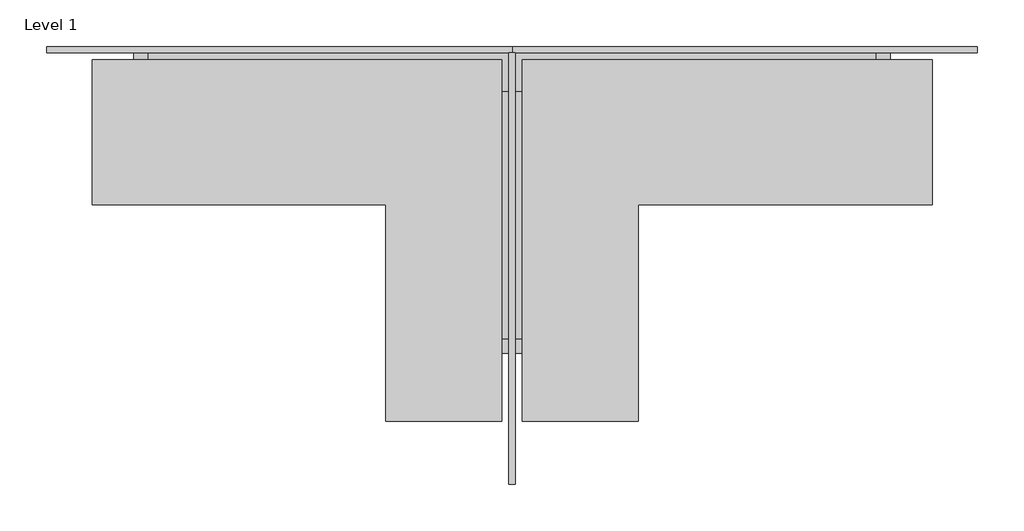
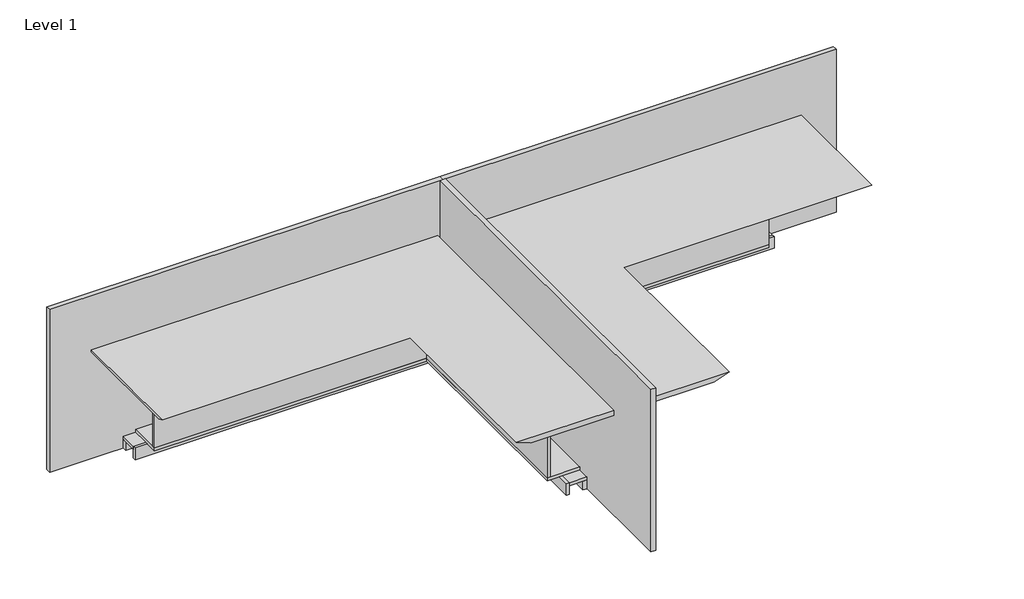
# One storey, incomplete: 9 proxies.
"""IFC4 building model written with IfcOpenShell, lengths in millimetres."""

import ifcopenshell
import ifcopenshell.guid

model = None  # the IFC model being written
_history = None  # IfcOwnerHistory: only IFC2X3 demands one
_inside = {}  # id of a spatial element -> (the spatial element, [elements in it])
_under = {}  # id of a project, library or spatial element -> (it, [spatial elements below it])
_declared = {}  # id of a project -> (the project, [libraries it declares])
_typed = {}  # id of a type object -> (the type object, [elements of that type])
_made_of = {}  # id of a material, layer set ... -> (it, [elements and type objects made of it])


def new_model(schema):
    """Start an empty IFC model of exactly this schema.

    Asked for "IFC4X3", IfcOpenShell would pick the latest addendum, in which some entities
    have other attributes; the version numbers below select the first issue.
    IFC2X3 requires an IfcOwnerHistory on every rooted entity: one is made here for all.
    """
    global model, _history
    if schema == "IFC4X3":
        model = ifcopenshell.file(schema_version=(4, 3, 0, 0))
    else:
        model = ifcopenshell.file(schema=schema)
    _inside.clear()
    _under.clear()
    _declared.clear()
    _typed.clear()
    _made_of.clear()
    _history = None
    if model.schema == "IFC2X3":
        org = make("IfcOrganization", Name="unknown")
        user = make(
            "IfcPersonAndOrganization",
            ThePerson=make("IfcPerson", FamilyName="unknown"),
            TheOrganization=org,
        )
        app = make(
            "IfcApplication",
            ApplicationDeveloper=org,
            Version="unknown",
            ApplicationFullName="unknown",
            ApplicationIdentifier="unknown",
        )
        _history = make(
            "IfcOwnerHistory",
            OwningUser=user,
            OwningApplication=app,
            ChangeAction="ADDED",
            CreationDate=0,
        )
    return model


def make(cls, **values):
    """One entity of the class cls with the attributes given. An attribute that is None is left unset."""
    return model.create_entity(
        cls, **{name: value for name, value in values.items() if value is not None}
    )


def rooted(cls, **values):
    """An entity with a GlobalId (a new one), such as an element, a storey or a relation."""
    return make(cls, GlobalId=ifcopenshell.guid.new(), OwnerHistory=_history, **values)


def si_unit(unit_type, name, prefix=None):
    """IfcSIUnit, for example si_unit("LENGTHUNIT", "METRE", prefix="MILLI")."""
    return make("IfcSIUnit", UnitType=unit_type, Prefix=prefix, Name=name)


def assignment(units):
    """IfcUnitAssignment: the units of a project."""
    return None if units is None else make("IfcUnitAssignment", Units=units)


def point(xyz):
    """IfcCartesianPoint."""
    return None if xyz is None else make("IfcCartesianPoint", Coordinates=xyz)


def direction(xyz):
    """IfcDirection."""
    return None if xyz is None else make("IfcDirection", DirectionRatios=xyz)


def frame(location, z_axis=None, x_axis=None):
    """IfcAxis2Placement3D, a coordinate frame: its origin and axes. An axis left out is left unset."""
    return make(
        "IfcAxis2Placement3D",
        Location=point(location),
        Axis=direction(z_axis),
        RefDirection=direction(x_axis),
    )


def origin():
    """The frame at (0, 0, 0) with its axes left unset."""
    return frame((0.0, 0.0, 0.0))


def origin_with_axes():
    """The frame at (0, 0, 0) with the z axis (0, 0, 1) and the x axis (1, 0, 0) written out."""
    return frame((0.0, 0.0, 0.0), z_axis=(0.0, 0.0, 1.0), x_axis=(1.0, 0.0, 0.0))


def place(relative_to, where):
    """IfcLocalPlacement: puts the frame where relative to a parent placement (None: the world)."""
    return make(
        "IfcLocalPlacement", PlacementRelTo=relative_to, RelativePlacement=where
    )


def context(
    kind, dimensions, precision=None, world=None, true_north=None, identifier=None
):
    """IfcGeometricRepresentationContext, for example the 3D "Model" context."""
    return make(
        "IfcGeometricRepresentationContext",
        ContextIdentifier=identifier,
        ContextType=kind,
        CoordinateSpaceDimension=dimensions,
        Precision=precision,
        WorldCoordinateSystem=world,
        TrueNorth=true_north,
    )


def project(units=None, contexts=None):
    """IfcProject with its units and contexts."""
    return rooted(
        "IfcProject",
        Name="project",
        RepresentationContexts=contexts,
        UnitsInContext=assignment(units),
    )


def spatial(cls, under=None, at=None, **own):
    """A site, building, storey or space (cls), placed at a placement, below another one or the project."""
    s = rooted(cls, ObjectPlacement=at, **own)
    if under is not None:
        _under.setdefault(under.id(), (under, []))[1].append(s)
    return s


def polyline(points):
    """IfcPolyline through the points."""
    return make("IfcPolyline", Points=[point(p) for p in points])


def outline(outer, holes=None, kind="AREA"):
    """IfcArbitraryClosedProfileDef: a profile drawn as a closed curve; with holes, ...WithVoids."""
    if holes is None:
        return make("IfcArbitraryClosedProfileDef", ProfileType=kind, OuterCurve=outer)
    return make(
        "IfcArbitraryProfileDefWithVoids",
        ProfileType=kind,
        OuterCurve=outer,
        InnerCurves=holes,
    )


def extrude(swept, where, along, depth):
    """IfcExtrudedAreaSolid: the profile swept, set in the frame where, extruded along a direction by depth."""
    return make(
        "IfcExtrudedAreaSolid",
        SweptArea=swept,
        Position=where,
        ExtrudedDirection=direction(along),
        Depth=depth,
    )


def faces_of(points, faces, orient=None, outer=None):
    """IfcFace entities. A face is a list of loops; a loop is a list of indices into points, from 0.

    orient and outer hold one flag for each loop. By default every Orientation is true, the
    first loop of a face is its IfcFaceOuterBound and the others are IfcFaceBound.
    """
    made = []
    for i, loops in enumerate(faces):
        bounds = []
        for j, loop in enumerate(loops):
            is_outer = j == 0 if outer is None else outer[i][j]
            bounds.append(
                make(
                    "IfcFaceOuterBound" if is_outer else "IfcFaceBound",
                    Bound=make("IfcPolyLoop", Polygon=[points[k] for k in loop]),
                    Orientation=True if orient is None else orient[i][j],
                )
            )
        made.append(make("IfcFace", Bounds=bounds))
    return made


def faceted_brep(points, faces, orient=None, outer=None, voids=None):
    """IfcFacetedBrep: a solid bounded by flat faces; with voids (closed shells), ...WithVoids."""
    shared = [point(p) for p in points]
    hull = make("IfcClosedShell", CfsFaces=faces_of(shared, faces, orient, outer))
    if voids is None:
        return make("IfcFacetedBrep", Outer=hull)
    return make(
        "IfcFacetedBrepWithVoids",
        Outer=hull,
        Voids=[
            make(cls, CfsFaces=faces_of(shared, fs, o, b)) for cls, fs, o, b in voids
        ],
    )


def shape(context_of_items, identifier, shape_type, items):
    """IfcShapeRepresentation: the items that make up one representation, for example the "Body"."""
    return make(
        "IfcShapeRepresentation",
        ContextOfItems=context_of_items,
        RepresentationIdentifier=identifier,
        RepresentationType=shape_type,
        Items=items,
    )


def source(mapping_origin, context_of_items, identifier, shape_type, items):
    """IfcRepresentationMap: a shape defined once, which mapped items show again and again."""
    return make(
        "IfcRepresentationMap",
        MappingOrigin=mapping_origin,
        MappedRepresentation=shape(context_of_items, identifier, shape_type, items),
    )


def transform(
    local_origin,
    x_axis=None,
    y_axis=None,
    z_axis=None,
    scale=None,
    scale2=None,
    scale3=None,
    uniform=True,
):
    """IfcCartesianTransformationOperator3D, or its non-uniform kind. x_axis, y_axis, z_axis: its Axis1, 2, 3."""
    if uniform:
        return make(
            "IfcCartesianTransformationOperator3D",
            Axis1=direction(x_axis),
            Axis2=direction(y_axis),
            LocalOrigin=point(local_origin),
            Scale=scale,
            Axis3=direction(z_axis),
        )
    return make(
        "IfcCartesianTransformationOperator3DnonUniform",
        Axis1=direction(x_axis),
        Axis2=direction(y_axis),
        LocalOrigin=point(local_origin),
        Scale=scale,
        Axis3=direction(z_axis),
        Scale2=scale2,
        Scale3=scale3,
    )


def mapped(mapping_source, mapping_target):
    """IfcMappedItem: shows the shape of a source again, moved by a transform."""
    return make(
        "IfcMappedItem", MappingSource=mapping_source, MappingTarget=mapping_target
    )


def made_of(thing, what):
    """Note that an element or type object is made of a material, layer set ...; save() writes the relation."""
    if what is not None:
        _made_of.setdefault(what.id(), (what, []))[1].append(thing)
    return thing


def element(
    cls,
    number,
    at=None,
    inside=None,
    cuts=None,
    type_object=None,
    material=None,
    context=None,
    identifier="Body",
    shape_type=None,
    held_by="IfcProductDefinitionShape",
    body=None,
    shapes=None,
    **own,
):
    """One element of the class cls, such as IfcWall. Its Tag is "e" and its number.

    at: its placement. inside: the storey or other place that contains it. cuts: it is an
    opening in that element (IfcRelVoidsElement). A single representation is given by context,
    identifier, shape_type and body (its items); several are given by shapes. held_by: the class
    of the entity that holds the representations. save() writes the other relations.
    """
    e = rooted(cls, Tag="e%d" % number, ObjectPlacement=at, **own)
    if body is not None:
        shapes = [shape(context, identifier, shape_type, body)]
    if shapes is not None:
        e.Representation = make(held_by, Representations=shapes)
    if inside is not None:
        _inside.setdefault(inside.id(), (inside, []))[1].append(e)
    if cuts is not None:
        rooted(
            "IfcRelVoidsElement", RelatingBuildingElement=cuts, RelatedOpeningElement=e
        )
    if type_object is not None:
        _typed.setdefault(type_object.id(), (type_object, []))[1].append(e)
    return made_of(e, material)


def aggregate(whole, parts):
    """IfcRelAggregates: a whole, such as a stair, and the parts it consists of."""
    return rooted("IfcRelAggregates", RelatingObject=whole, RelatedObjects=parts)


def save(model, path):
    """Write the relations noted so far, then the file.

    IfcRelAggregates (storeys below a building ...), IfcRelContainedInSpatialStructure (elements
    in a storey), IfcRelDefinesByType, IfcRelAssociatesMaterial and IfcRelDeclares: one each for
    every whole, place, type object, material and project.
    """
    for whole, parts in _under.values():
        aggregate(whole, parts)
    for where, things in _inside.values():
        rooted(
            "IfcRelContainedInSpatialStructure",
            RelatedElements=things,
            RelatingStructure=where,
        )
    for kind, things in _typed.values():
        rooted("IfcRelDefinesByType", RelatedObjects=things, RelatingType=kind)
    for what, things in _made_of.values():
        rooted("IfcRelAssociatesMaterial", RelatedObjects=things, RelatingMaterial=what)
    for by, libraries in _declared.values():
        rooted("IfcRelDeclares", RelatingContext=by, RelatedDefinitions=libraries)
    model.write(path)


def generic_models_a926e686(model_context):
    return source(origin(), model_context, "Body", "SweptSolid", [
        extrude(outline(polyline([(0.0, 76.2), (1965.325, 76.2), (1965.325, 57.15), (0.0, 57.15), (0.0, 76.2)])), frame((0.0, 0.0, -127.0), z_axis=(0.0, 0.0, 1.0), x_axis=(1.0, 0.0, 0.0)), (0.0, 0.0, 1.0), 107.95),
        extrude(outline(polyline([(1965.325, 565.15), (76.2, 565.15), (76.2, 584.2), (1965.325, 584.2), (1965.325, 565.15)])), frame((0.0, 0.0, -127.0), z_axis=(0.0, 0.0, 1.0), x_axis=(1.0, 0.0, 0.0)), (0.0, 0.0, 1.0), 203.2),
        extrude(outline(polyline([(1734.34375, 561.975), (1734.34375, 411.95625), (78.58125, 411.95625), (78.58125, 561.975), (1734.34375, 561.975)])), frame((0.0, 0.0, 57.15), z_axis=(0.0, 0.0, 1.0), x_axis=(1.0, 0.0, 0.0)), (0.0, 0.0, 1.0), 19.05),
        extrude(outline(polyline([(1965.325, 565.15), (1965.325, 95.25), (76.2, 95.25), (76.2, 565.15), (1965.325, 565.15)])), frame((0.0, 0.0, 57.15), z_axis=(0.0, 0.0, 1.0), x_axis=(1.0, 0.0, 0.0)), (0.0, 0.0, 1.0), 19.05),
        extrude(outline(polyline([(1965.325, 0.0), (0.0, 0.0), (0.0, 76.2), (1965.325, 76.2), (1965.325, 0.0)])), frame((0.0, 0.0, -19.05), z_axis=(0.0, 0.0, 1.0), x_axis=(1.0, 0.0, 0.0)), (0.0, 0.0, 1.0), 19.05),
        extrude(outline(polyline([(1965.325, 76.2), (76.2, 76.2), (76.2, 95.25), (1965.325, 95.25), (1965.325, 76.2)])), frame((0.0, 0.0, -127.0), z_axis=(0.0, 0.0, 1.0), x_axis=(1.0, 0.0, 0.0)), (0.0, 0.0, 1.0), 203.2),
        extrude(outline(polyline([(1965.325, 57.15), (1965.325, 0.0), (0.0, 0.0), (0.0, 57.15), (1965.325, 57.15)])), frame((0.0, 0.0, -127.0), z_axis=(0.0, 0.0, 1.0), x_axis=(1.0, 0.0, 0.0)), (0.0, 0.0, 1.0), 25.4),
    ])


def generic_models_46a064e5(model_context):
    return source(origin(), model_context, "Body", "SweptSolid", [
        extrude(outline(polyline([(4267.2, 0.0), (2819.4, 0.0), (2819.4, 76.2), (4267.2, 76.2), (4267.2, 0.0)])), frame((0.0, 0.0, -19.05), z_axis=(0.0, 0.0, 1.0), x_axis=(1.0, 0.0, 0.0)), (0.0, 0.0, 1.0), 19.05),
        extrude(outline(polyline([(2897.98125, 411.95625), (2897.98125, 561.975), (4188.61875, 561.975), (4188.61875, 411.95625), (2897.98125, 411.95625)])), frame((0.0, 0.0, 57.15), z_axis=(0.0, 0.0, 1.0), x_axis=(1.0, 0.0, 0.0)), (0.0, 0.0, 1.0), 19.05),
        extrude(outline(polyline([(2819.4, 76.2), (4267.2, 76.2), (4267.2, 57.15), (2819.4, 57.15), (2819.4, 76.2)])), frame((0.0, 0.0, -127.0), z_axis=(0.0, 0.0, 1.0), x_axis=(1.0, 0.0, 0.0)), (0.0, 0.0, 1.0), 107.95),
        extrude(outline(polyline([(2819.4, 0.0), (2819.4, 57.15), (4267.2, 57.15), (4267.2, 0.0), (2819.4, 0.0)])), frame((0.0, 0.0, -127.0), z_axis=(0.0, 0.0, 1.0), x_axis=(1.0, 0.0, 0.0)), (0.0, 0.0, 1.0), 25.4),
        extrude(outline(polyline([(2895.6, 95.25), (2895.6, 409.575), (4191.0, 409.575), (4191.0, 95.25), (2895.6, 95.25)])), frame((0.0, 0.0, 57.15), z_axis=(0.0, 0.0, 1.0), x_axis=(1.0, 0.0, 0.0)), (0.0, 0.0, 1.0), 19.05),
        extrude(outline(polyline([(4191.0, 76.2), (2895.6, 76.2), (2895.6, 95.25), (4191.0, 95.25), (4191.0, 76.2)])), frame((0.0, 0.0, -127.0), z_axis=(0.0, 0.0, 1.0), x_axis=(1.0, 0.0, 0.0)), (0.0, 0.0, 1.0), 203.2),
        extrude(outline(polyline([(4191.0, 565.15), (2895.6, 565.15), (2895.6, 584.2), (4191.0, 584.2), (4191.0, 565.15)])), frame((0.0, 0.0, -127.0), z_axis=(0.0, 0.0, 1.0), x_axis=(1.0, 0.0, 0.0)), (0.0, 0.0, 1.0), 203.2),
    ])


def generic_models_62a96654(model_context):
    return source(origin(), model_context, "Body", "SweptSolid", [
        extrude(outline(polyline([(0.0, 76.2), (1447.8, 76.2), (1447.8, 57.15), (0.0, 57.15), (0.0, 76.2)])), frame((0.0, 0.0, -127.0), z_axis=(0.0, 0.0, 1.0), x_axis=(1.0, 0.0, 0.0)), (0.0, 0.0, 1.0), 107.95),
        extrude(outline(polyline([(1371.6, 565.15), (76.2, 565.15), (76.2, 584.2), (1371.6, 584.2), (1371.6, 565.15)])), frame((0.0, 0.0, -127.0), z_axis=(0.0, 0.0, 1.0), x_axis=(1.0, 0.0, 0.0)), (0.0, 0.0, 1.0), 203.2),
        extrude(outline(polyline([(1369.21875, 561.975), (1369.21875, 411.95625), (78.58125, 411.95625), (78.58125, 561.975), (1369.21875, 561.975)])), frame((0.0, 0.0, 57.15), z_axis=(0.0, 0.0, 1.0), x_axis=(1.0, 0.0, 0.0)), (0.0, 0.0, 1.0), 19.05),
        extrude(outline(polyline([(1371.6, 409.575), (1371.6, 95.25), (76.2, 95.25), (76.2, 409.575), (1371.6, 409.575)])), frame((0.0, 0.0, 57.15), z_axis=(0.0, 0.0, 1.0), x_axis=(1.0, 0.0, 0.0)), (0.0, 0.0, 1.0), 19.05),
        extrude(outline(polyline([(1447.8, 0.0), (0.0, 0.0), (0.0, 76.2), (1447.8, 76.2), (1447.8, 0.0)])), frame((0.0, 0.0, -19.05), z_axis=(0.0, 0.0, 1.0), x_axis=(1.0, 0.0, 0.0)), (0.0, 0.0, 1.0), 19.05),
        extrude(outline(polyline([(1371.6, 76.2), (76.2, 76.2), (76.2, 95.25), (1371.6, 95.25), (1371.6, 76.2)])), frame((0.0, 0.0, -127.0), z_axis=(0.0, 0.0, 1.0), x_axis=(1.0, 0.0, 0.0)), (0.0, 0.0, 1.0), 203.2),
        extrude(outline(polyline([(1447.8, 57.15), (1447.8, 0.0), (0.0, 0.0), (0.0, 57.15), (1447.8, 57.15)])), frame((0.0, 0.0, -127.0), z_axis=(0.0, 0.0, 1.0), x_axis=(1.0, 0.0, 0.0)), (0.0, 0.0, 1.0), 25.4),
    ])


def generic_models_bbd4649e(model_context):
    return source(origin(), model_context, "Body", "Brep", [
        faceted_brep([(2146.3, 33.3375, 758.7929632), (606.3929632, 33.3375, 758.7929632), (514.7989348, 0.0, 667.1989348), (2089.5989348, 0.0, 667.1989348), (2146.3, 20.6375, 723.9), (606.3929632, 33.3375, 1892.3), (514.7989348, 0.0, 1892.3), (0.0, 33.3375, 1892.3), (0.0, 0.0, 1892.3), (2146.3, 33.3375, 0.0), (2146.3, 20.6375, 0.0), (2089.5989348, 0.0, 0.0), (0.0, 0.0, 0.0), (0.0, 33.3375, 0.0)], [[[0, 1, 2, 3, 4]], [[1, 5, 6, 2]], [[6, 5, 7, 8]], [[9, 0, 4, 10]], [[4, 3, 11, 10]], [[10, 11, 12, 13, 9]], [[8, 12, 11, 3, 2, 6]], [[1, 0, 9, 13, 7, 5]], [[12, 8, 7, 13]]]),
    ])


def generic_models_80a12a30(model_context):
    return source(origin(), model_context, "Body", "Brep", [
        faceted_brep([(56.7010652, 0.0, 667.1989348), (1631.5010652, 0.0, 667.1989348), (1539.9070368, 33.3375, 758.7929632), (0.0, 33.3375, 758.7929632), (0.0, 20.6375, 723.9), (1631.5010652, 0.0, 1892.3), (1539.9070368, 33.3375, 1892.3), (0.0, 33.3375, 0.0), (0.0, 20.6375, 0.0), (2146.3, 33.3375, 1892.3), (2146.3, 0.0, 1892.3), (56.7010652, 0.0, 0.0), (2146.3, 33.3375, 0.0), (2146.3, 0.0, 0.0)], [[[0, 1, 2, 3, 4]], [[1, 5, 6, 2]], [[4, 3, 7, 8]], [[9, 6, 5, 10]], [[0, 4, 8, 11]], [[11, 8, 7, 12, 13]], [[10, 13, 12, 9]], [[9, 12, 7, 3, 2, 6]], [[1, 0, 11, 13, 10, 5]]]),
    ])


def generic_models_3f3b0598(model_context):
    return source(origin(), model_context, "Body", "SweptSolid", [
        extrude(outline(polyline([(3489.325, 76.2), (5454.65, 76.2), (5454.65, 57.15), (3489.325, 57.15), (3489.325, 76.2)])), frame((0.0, 0.0, -127.0), z_axis=(0.0, 0.0, 1.0), x_axis=(1.0, 0.0, 0.0)), (0.0, 0.0, 1.0), 107.95),
        extrude(outline(polyline([(3720.30625, 411.95625), (3720.30625, 561.975), (5376.06875, 561.975), (5376.06875, 411.95625), (3720.30625, 411.95625)])), frame((0.0, 0.0, 57.15), z_axis=(0.0, 0.0, 1.0), x_axis=(1.0, 0.0, 0.0)), (0.0, 0.0, 1.0), 19.05),
        extrude(outline(polyline([(5378.45, 565.15), (3489.325, 565.15), (3489.325, 584.2), (5378.45, 584.2), (5378.45, 565.15)])), frame((0.0, 0.0, -127.0), z_axis=(0.0, 0.0, 1.0), x_axis=(1.0, 0.0, 0.0)), (0.0, 0.0, 1.0), 203.2),
        extrude(outline(polyline([(5378.45, 565.15), (5378.45, 95.25), (3489.325, 95.25), (3489.325, 565.15), (5378.45, 565.15)])), frame((0.0, 0.0, 57.15), z_axis=(0.0, 0.0, 1.0), x_axis=(1.0, 0.0, 0.0)), (0.0, 0.0, 1.0), 19.05),
        extrude(outline(polyline([(5454.65, 0.0), (3489.325, 0.0), (3489.325, 76.2), (5454.65, 76.2), (5454.65, 0.0)])), frame((0.0, 0.0, -19.05), z_axis=(0.0, 0.0, 1.0), x_axis=(1.0, 0.0, 0.0)), (0.0, 0.0, 1.0), 19.05),
        extrude(outline(polyline([(5378.45, 76.2), (3489.325, 76.2), (3489.325, 95.25), (5378.45, 95.25), (5378.45, 76.2)])), frame((0.0, 0.0, -127.0), z_axis=(0.0, 0.0, 1.0), x_axis=(1.0, 0.0, 0.0)), (0.0, 0.0, 1.0), 203.2),
        extrude(outline(polyline([(3489.325, 0.0), (3489.325, 57.15), (5454.65, 57.15), (5454.65, 0.0), (3489.325, 0.0)])), frame((0.0, 0.0, -127.0), z_axis=(0.0, 0.0, 1.0), x_axis=(1.0, 0.0, 0.0)), (0.0, 0.0, 1.0), 25.4),
    ])


def generic_models_2158f98c(model_context):
    return source(origin(), model_context, "Body", "SweptSolid", [
        extrude(outline(polyline([(2438.4, 1066.8), (2438.4, 0.0), (0.0, 0.0), (0.0, 1066.8), (2438.4, 1066.8)])), origin_with_axes(), (0.0, 0.0, 1.0), 31.75),
    ])


def generic_models_7a09384d(model_context):
    return source(origin(), model_context, "Body", "SweptSolid", [
        extrude(outline(polyline([(2260.6, 1066.8), (2260.6, 0.0), (0.0, 0.0), (0.0, 1066.8), (2260.6, 1066.8)])), origin_with_axes(), (0.0, 0.0, 1.0), 31.75),
    ])


model = new_model("IFC4")

# Units and contexts
model_context = context("Model", 3, world=origin())
ifc_project = project(units=[si_unit("LENGTHUNIT", "METRE", prefix="MILLI")], contexts=[model_context])

# Site, building, storey
site = spatial("IfcSite", under=ifc_project)
building = spatial("IfcBuilding", under=site)
storey = spatial("IfcBuildingStorey", under=building, Name="Level 1", Elevation=0.0)

# Proxies
placement = place(None, origin())
generic_models_shape = generic_models_a926e686(model_context)
element("IfcBuildingElementProxy", 1, Name="ELEVATE^ADMIN_74.38x23x8 FRONT WIRE WALL-BASE TAIL LEFT", ObjectType="ELEVATE^ADMIN_74.38x23x8 FRONT WIRE WALL-BASE TAIL LEFT", at=placement, inside=storey, context=model_context, shape_type="MappedRepresentation", body=[
    mapped(generic_models_shape, transform((457.2, -158.75, 0.0), x_axis=(1.0, 0.0, 0.0), y_axis=(0.0, 0.0, 1.0), z_axis=(0.0, -1.0, 0.0))),
])
generic_models_2_shape = generic_models_46a064e5(model_context)
element("IfcBuildingElementProxy", 2, Name="ELEVATE^ADMIN_51x23x8 SIDE WIRE WALL-LIFT COLUMN RIGHT", ObjectType="ELEVATE^ADMIN_51x23x8 SIDE WIRE WALL-LIFT COLUMN RIGHT", at=placement, inside=storey, context=model_context, shape_type="MappedRepresentation", body=[
    mapped(generic_models_2_shape, transform((2295.525, 2660.65, 0.0), x_axis=(0.0, -1.0, 0.0), y_axis=(0.0, 0.0, 1.0), z_axis=(-1.0, 0.0, 0.0))),
])
generic_models_3_shape = generic_models_62a96654(model_context)
element("IfcBuildingElementProxy", 3, Name="ELEVATE^ADMIN_51x23x8 SIDE WIRE WALL-LIFT COLUMN LEFT", ObjectType="ELEVATE^ADMIN_51x23x8 SIDE WIRE WALL-LIFT COLUMN LEFT", at=placement, inside=storey, context=model_context, shape_type="MappedRepresentation", body=[
    mapped(generic_models_3_shape, transform((2581.275, -1606.55, 0.0), x_axis=(0.0, 1.0, 0.0), y_axis=(0.0, 0.0, 1.0), z_axis=(1.0, 0.0, 0.0))),
])
generic_models_4_shape = generic_models_bbd4649e(model_context)
element("IfcBuildingElementProxy", 4, Name="ELEVATE^ADMIN_84.5x74.5-BOOM RT WORKSURFACE", ObjectType="ELEVATE^ADMIN_84.5x74.5-BOOM RT WORKSURFACE", at=placement, inside=storey, context=model_context, shape_type="MappedRepresentation", body=[
    mapped(generic_models_4_shape, transform((2492.375, -69.85, 709.6125), x_axis=(1.0, 0.0, 0.0), y_axis=(0.0, 0.0, 1.0), z_axis=(0.0, -1.0, 0.0))),
])
generic_models_5_shape = generic_models_80a12a30(model_context)
element("IfcBuildingElementProxy", 5, Name="ELEVATE^ADMIN_84.5x74.5-BOOM LT WORKSURFACE", ObjectType="ELEVATE^ADMIN_84.5x74.5-BOOM LT WORKSURFACE", at=placement, inside=storey, context=model_context, shape_type="MappedRepresentation", body=[
    mapped(generic_models_5_shape, transform((238.125, -69.85, 709.6125), x_axis=(1.0, 0.0, 0.0), y_axis=(0.0, 0.0, 1.0), z_axis=(0.0, -1.0, 0.0))),
])
generic_models_6_shape = generic_models_3f3b0598(model_context)
element("IfcBuildingElementProxy", 6, Name="ELEVATE^ADMIN_74.38x23x8 FRONT WIRE WALL-BASE TAIL RIGHT", ObjectType="ELEVATE^ADMIN_74.38x23x8 FRONT WIRE WALL-BASE TAIL RIGHT", at=placement, inside=storey, context=model_context, shape_type="MappedRepresentation", body=[
    mapped(generic_models_6_shape, transform((-1035.05, -158.75, 0.0), x_axis=(1.0, 0.0, 0.0), y_axis=(0.0, 0.0, 1.0), z_axis=(0.0, -1.0, 0.0))),
])
generic_models_7_shape = generic_models_2158f98c(model_context)
element("IfcBuildingElementProxy", 7, Name="ELEVATE^ADMIN_42x96x1.25-FRONT WALL", ObjectType="ELEVATE^ADMIN_42x96x1.25-FRONT WALL", at=placement, inside=storey, context=model_context, shape_type="MappedRepresentation", body=[
    mapped(generic_models_7_shape, transform((2438.4, 0.0, 0.0), x_axis=(1.0, 0.0, 0.0), y_axis=(0.0, 0.0, 1.0), z_axis=(0.0, -1.0, 0.0))),
])
element("IfcBuildingElementProxy", 8, Name="ELEVATE^ADMIN_42x96x1.25-FRONT WALL", ObjectType="ELEVATE^ADMIN_42x96x1.25-FRONT WALL", at=placement, inside=storey, context=model_context, shape_type="MappedRepresentation", body=[
    mapped(generic_models_7_shape, transform((0.0, 0.0, 0.0), x_axis=(1.0, 0.0, 0.0), y_axis=(0.0, 0.0, 1.0), z_axis=(0.0, -1.0, 0.0))),
])
generic_models_8_shape = generic_models_7a09384d(model_context)
element("IfcBuildingElementProxy", 9, Name="ELEVATE^ADMIN_42x89x1.25-CENTER DIVIDER WALL", ObjectType="ELEVATE^ADMIN_42x89x1.25-CENTER DIVIDER WALL", at=placement, inside=storey, context=model_context, shape_type="MappedRepresentation", body=[
    mapped(generic_models_8_shape, transform((2422.525, -2292.35, 0.0), x_axis=(0.0, 1.0, 0.0), y_axis=(0.0, 0.0, 1.0), z_axis=(1.0, 0.0, 0.0))),
])

save(model, "model.ifc")
